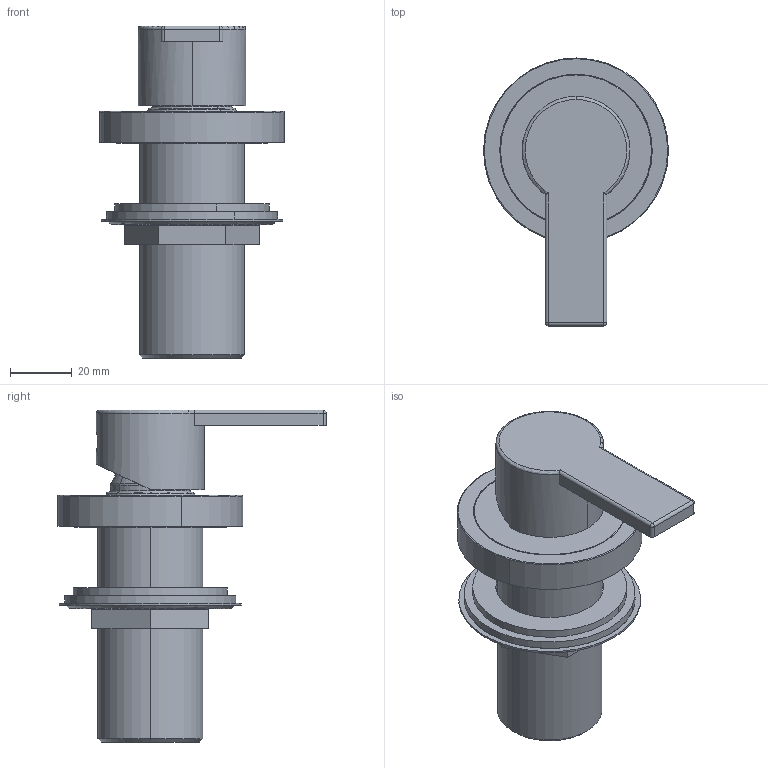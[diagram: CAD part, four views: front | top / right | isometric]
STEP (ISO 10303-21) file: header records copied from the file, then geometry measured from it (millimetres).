
FILE_DESCRIPTION (( 'STEP AP203' ), '1' );
FILE_NAME ('MAC25.STEP', '2017-04-04T13:48:23', ( '' ), ( '' ), 'SwSTEP 2.0', 'SolidWorks 2014', '' );
FILE_SCHEMA (( 'CONFIG_CONTROL_DESIGN' ));
Length unit declared in the file: millimetre
Products named in the file (15): eu01_dado_esa_x_codolo; EU0119_2; eu01_rondella_gomma_spugna; EU0121_0; EU0360_1; CARTNUB001; eu01_rondella_gomma; EU0010_0; EU0120_0; TAPPHITO01; GRANO M5x6 ACCIAIO; FISSGECO001; eu01_flangia_sagomata; MAC25; OR4569262NBR
Assembly tree (15 placements, depth 3):
  MAC25
    EU0010_0
    EU0121_0
    OR4569262NBR  x2
    EU0119_2
    EU0120_0
    CARTNUB001
    FISSGECO001
      eu01_flangia_sagomata
      eu01_rondella_gomma
      eu01_rondella_gomma_spugna
      eu01_dado_esa_x_codolo
    EU0360_1
    GRANO M5x6 ACCIAIO
    TAPPHITO01
Bounding box: 60 x 87 x 107.7 mm (x, y, z)
Volume: 90608 mm3; surface area: 60593.9 mm2
Topology: 16 solids, 16 shells, 521 faces, 1227 edges, 762 vertices
Faces by surface type: cylinder 175, plane 173, cone 77, bspline 48, torus 46, sphere 2
Entity records: 19093 total; most frequent: CARTESIAN_POINT 5538, DIRECTION 2671, ORIENTED_EDGE 2406, EDGE_CURVE 1203, AXIS2_PLACEMENT_3D 1092, VERTEX_POINT 754, CIRCLE 600, EDGE_LOOP 573
